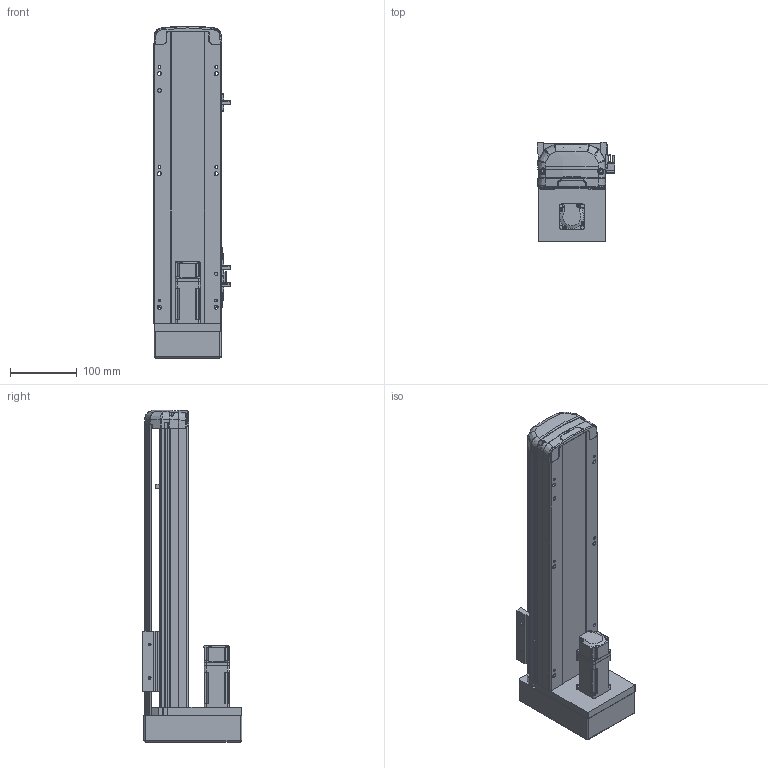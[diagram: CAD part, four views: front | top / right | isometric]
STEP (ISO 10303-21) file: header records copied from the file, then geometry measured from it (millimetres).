
FILE_DESCRIPTION (( 'STEP AP214' ), '1' );
FILE_NAME ('RTH10-XX-250-M-M10-C4.STEP', '2025-10-25T05:43:36', ( 'Microsoft' ), ( 'Microsoft' ), 'SwSTEP 2.0', 'SolidWorks 2018', '' );
FILE_SCHEMA (( 'AUTOMOTIVE_DESIGN' ));
Length unit declared in the file: millimetre
Products named in the file (10): RTH10-XX-250-M-M10-C4; N_P10^RTH10-XX-100-M-M10-C4; N_RTH12-M-018-裔赽^RTH10-XX-100-M-M10-C4; N_OMRON EE-SX672 传感器^RTH10-XX-100-M-M10-C4; N_RTH12-M-011P-臏倰第菁釱^RTH10-XX-100-M-M10-C4; N_RTH12-GY-004-賑釱^RTH10-XX-100-M-M10-C4; N_RTH13-L-012覜茼え俋离^RTH10-XX-100-M-M10-C4; N_RTH12-GY-001P^RTH10-XX-100-M-M10-C4; N_RTH12-M-007P-奻裔^RTH10-XX-100-M-M10-C4; N_RTH12-M-008-萇儂啣^RTH10-XX-100-M-M10-C4
Assembly tree (11 placements, depth 2):
  RTH10-XX-250-M-M10-C4
    N_RTH12-M-011P-臏倰第菁釱^RTH10-XX-100-M-M10-C4
    N_RTH13-L-012覜茼え俋离^RTH10-XX-100-M-M10-C4
    N_OMRON EE-SX672 传感器^RTH10-XX-100-M-M10-C4  x3
    N_P10^RTH10-XX-100-M-M10-C4
    N_RTH12-M-007P-奻裔^RTH10-XX-100-M-M10-C4
    N_RTH12-M-008-萇儂啣^RTH10-XX-100-M-M10-C4
    N_RTH12-M-018-裔赽^RTH10-XX-100-M-M10-C4
    N_RTH12-GY-004-賑釱^RTH10-XX-100-M-M10-C4
    N_RTH12-GY-001P^RTH10-XX-100-M-M10-C4
Bounding box: 116.5 x 149 x 497.31 mm (x, y, z)
Volume: 2659591 mm3; surface area: 410443.3 mm2
Topology: 10 solids, 12 shells, 1893 faces, 5263 edges, 3451 vertices
Faces by surface type: plane 947, bspline 472, cylinder 439, cone 29, sphere 4, torus 2
Entity records: 56543 total; most frequent: CARTESIAN_POINT 22727, ORIENTED_EDGE 7598, DIRECTION 5781, EDGE_CURVE 3805, VERTEX_POINT 2495, LINE 2019, VECTOR 2019, AXIS2_PLACEMENT_3D 1881
